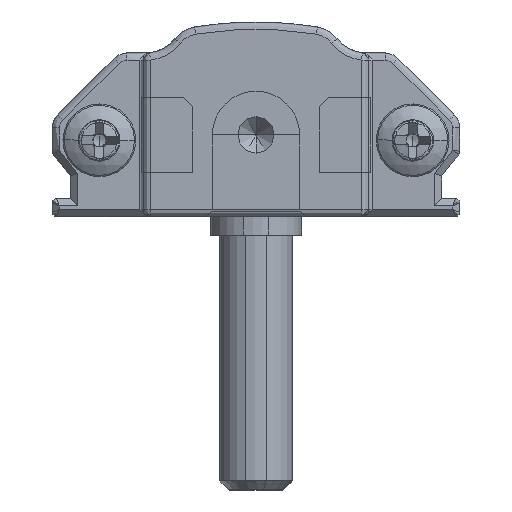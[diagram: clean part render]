
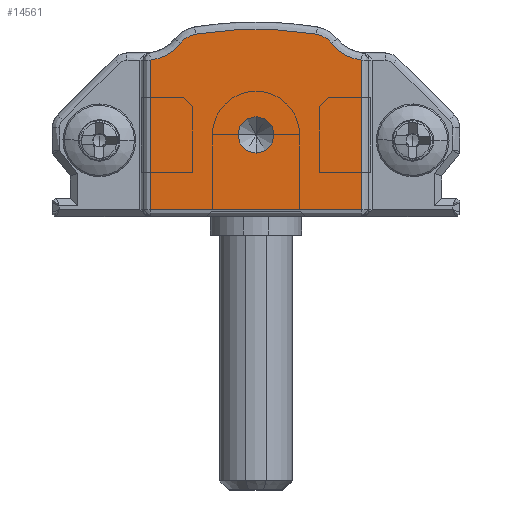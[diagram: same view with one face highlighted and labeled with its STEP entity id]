
A CAD part, front view. The second image highlights one B-rep face of the part: STEP entity #14561.
In plain terms, the highlighted planar face has unit normal (0, -1, 0).
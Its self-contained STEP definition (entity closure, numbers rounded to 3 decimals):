
#469 = ORIENTED_EDGE ( 'NONE', *, *, #38352, .T. ) ;
#662 = EDGE_LOOP ( 'NONE', ( #44811, #12972, #469, #17479, #34197, #4819, #10819, #37495 ) ) ;
#1742 = EDGE_CURVE ( 'NONE', #5420, #43557, #46769, .T. ) ;
#2039 = AXIS2_PLACEMENT_3D ( 'NONE', #30974, #5630, #42130 ) ;
#2351 = CARTESIAN_POINT ( 'NONE',  ( 5.162, -15., 11. ) ) ;
#3661 = EDGE_CURVE ( 'NONE', #36883, #9258, #21537, .T. ) ;
#4067 = CIRCLE ( 'NONE', #33595, 20.676 ) ;
#4657 = EDGE_CURVE ( 'NONE', #34499, #5420, #38083, .T. ) ;
#4819 = ORIENTED_EDGE ( 'NONE', *, *, #40513, .T. ) ;
#5420 = VERTEX_POINT ( 'NONE', #44449 ) ;
#5450 = CARTESIAN_POINT ( 'NONE',  ( 11.2, -15., 4.5 ) ) ;
#5630 = DIRECTION ( 'NONE',  ( 0., -1., 0. ) ) ;
#6838 = CARTESIAN_POINT ( 'NONE',  ( 17.238, -15., 11. ) ) ;
#8725 = CARTESIAN_POINT ( 'NONE',  ( 8.1, -15., 8.75 ) ) ;
#9174 = VERTEX_POINT ( 'NONE', #37020 ) ;
#9258 = VERTEX_POINT ( 'NONE', #13348 ) ;
#9408 = DIRECTION ( 'NONE',  ( 1., 0., 0. ) ) ;
#9730 = CIRCLE ( 'NONE', #13580, 1. ) ;
#10819 = ORIENTED_EDGE ( 'NONE', *, *, #23355, .T. ) ;
#10952 = CIRCLE ( 'NONE', #41206, 1. ) ;
#12972 = ORIENTED_EDGE ( 'NONE', *, *, #20765, .T. ) ;
#13348 = CARTESIAN_POINT ( 'NONE',  ( 7.068, -15., 9.541 ) ) ;
#13580 = AXIS2_PLACEMENT_3D ( 'NONE', #15923, #30334, #44364 ) ;
#13787 = CARTESIAN_POINT ( 'NONE',  ( 14.508, -15., 10.034 ) ) ;
#14305 = DIRECTION ( 'NONE',  ( 0., 0., 1. ) ) ;
#14561 = ADVANCED_FACE ( 'NONE', ( #46086, #46324 ), #35611, .T. ) ;
#15923 = CARTESIAN_POINT ( 'NONE',  ( 11.2, -15., 4.5 ) ) ;
#16167 = CARTESIAN_POINT ( 'NONE',  ( 5.4, -15., 8.612 ) ) ;
#16361 = CIRCLE ( 'NONE', #39911, 2.4 ) ;
#16378 = DIRECTION ( 'NONE',  ( 0., 0., -1. ) ) ;
#16612 = CARTESIAN_POINT ( 'NONE',  ( 15.332, -15., 9.541 ) ) ;
#17075 = CARTESIAN_POINT ( 'NONE',  ( 5.4, -15., 0.4 ) ) ;
#17089 = DIRECTION ( 'NONE',  ( 0., 0., -1. ) ) ;
#17479 = ORIENTED_EDGE ( 'NONE', *, *, #26780, .T. ) ;
#18183 = ORIENTED_EDGE ( 'NONE', *, *, #44472, .F. ) ;
#20070 = CARTESIAN_POINT ( 'NONE',  ( 17., -15., 0.4 ) ) ;
#20765 = EDGE_CURVE ( 'NONE', #43557, #39055, #16361, .T. ) ;
#21537 = CIRCLE ( 'NONE', #28311, 1.3 ) ;
#21609 = CARTESIAN_POINT ( 'NONE',  ( 17., -15., 8.612 ) ) ;
#22435 = VECTOR ( 'NONE', #9408, 1000. ) ;
#23176 = DIRECTION ( 'NONE',  ( 0., -1., 0. ) ) ;
#23355 = EDGE_CURVE ( 'NONE', #42604, #34499, #42656, .T. ) ;
#24138 = CARTESIAN_POINT ( 'NONE',  ( 11.2, -15., 3.5 ) ) ;
#24861 = DIRECTION ( 'NONE',  ( 0., 0., -1. ) ) ;
#25562 = CIRCLE ( 'NONE', #2039, 1.3 ) ;
#26031 = AXIS2_PLACEMENT_3D ( 'NONE', #2351, #35063, #17089 ) ;
#26290 = EDGE_LOOP ( 'NONE', ( #18183, #37652 ) ) ;
#26597 = DIRECTION ( 'NONE',  ( 0., -1., 0. ) ) ;
#26780 = EDGE_CURVE ( 'NONE', #32908, #36883, #4067, .T. ) ;
#26847 = DIRECTION ( 'NONE',  ( 0., 1., 0. ) ) ;
#27129 = VECTOR ( 'NONE', #46015, 1000. ) ;
#27893 = DIRECTION ( 'NONE',  ( 0., -1., 0. ) ) ;
#28247 = CARTESIAN_POINT ( 'NONE',  ( 17., -15., 8.612 ) ) ;
#28311 = AXIS2_PLACEMENT_3D ( 'NONE', #8725, #23176, #37616 ) ;
#28467 = DIRECTION ( 'NONE',  ( 0., 0., -1. ) ) ;
#30334 = DIRECTION ( 'NONE',  ( 0., -1., 0. ) ) ;
#30642 = CARTESIAN_POINT ( 'NONE',  ( 5.4, -15., 0.4 ) ) ;
#30974 = CARTESIAN_POINT ( 'NONE',  ( 14.3, -15., 8.75 ) ) ;
#32672 = VECTOR ( 'NONE', #14305, 1000. ) ;
#32908 = VERTEX_POINT ( 'NONE', #13787 ) ;
#33595 = AXIS2_PLACEMENT_3D ( 'NONE', #35004, #27893, #35480 ) ;
#34197 = ORIENTED_EDGE ( 'NONE', *, *, #3661, .T. ) ;
#34499 = VERTEX_POINT ( 'NONE', #30642 ) ;
#35004 = CARTESIAN_POINT ( 'NONE',  ( 11.2, -15., -10.376 ) ) ;
#35063 = DIRECTION ( 'NONE',  ( 0., 1., 0. ) ) ;
#35480 = DIRECTION ( 'NONE',  ( 0., 0., -1. ) ) ;
#35611 = PLANE ( 'NONE',  #35699 ) ;
#35699 = AXIS2_PLACEMENT_3D ( 'NONE', #43438, #39878, #28467 ) ;
#36470 = CARTESIAN_POINT ( 'NONE',  ( 7.892, -15., 10.034 ) ) ;
#36728 = EDGE_CURVE ( 'NONE', #9174, #41522, #10952, .T. ) ;
#36883 = VERTEX_POINT ( 'NONE', #36470 ) ;
#37020 = CARTESIAN_POINT ( 'NONE',  ( 11.2, -15., 5.5 ) ) ;
#37495 = ORIENTED_EDGE ( 'NONE', *, *, #4657, .T. ) ;
#37616 = DIRECTION ( 'NONE',  ( 0., 0., -1. ) ) ;
#37652 = ORIENTED_EDGE ( 'NONE', *, *, #36728, .F. ) ;
#38083 = LINE ( 'NONE', #20070, #22435 ) ;
#38352 = EDGE_CURVE ( 'NONE', #39055, #32908, #25562, .T. ) ;
#39055 = VERTEX_POINT ( 'NONE', #16612 ) ;
#39878 = DIRECTION ( 'NONE',  ( 0., -1., 0. ) ) ;
#39911 = AXIS2_PLACEMENT_3D ( 'NONE', #6838, #26847, #24861 ) ;
#40513 = EDGE_CURVE ( 'NONE', #9258, #42604, #41148, .T. ) ;
#41148 = CIRCLE ( 'NONE', #26031, 2.4 ) ;
#41206 = AXIS2_PLACEMENT_3D ( 'NONE', #5450, #26597, #16378 ) ;
#41522 = VERTEX_POINT ( 'NONE', #24138 ) ;
#42130 = DIRECTION ( 'NONE',  ( 0., 0., -1. ) ) ;
#42604 = VERTEX_POINT ( 'NONE', #16167 ) ;
#42656 = LINE ( 'NONE', #17075, #27129 ) ;
#43438 = CARTESIAN_POINT ( 'NONE',  ( 22.15, -15., 3.606 ) ) ;
#43557 = VERTEX_POINT ( 'NONE', #28247 ) ;
#44364 = DIRECTION ( 'NONE',  ( 0., 0., -1. ) ) ;
#44449 = CARTESIAN_POINT ( 'NONE',  ( 17., -15., 0.4 ) ) ;
#44472 = EDGE_CURVE ( 'NONE', #41522, #9174, #9730, .T. ) ;
#44811 = ORIENTED_EDGE ( 'NONE', *, *, #1742, .T. ) ;
#46015 = DIRECTION ( 'NONE',  ( 0., 0., -1. ) ) ;
#46086 = FACE_OUTER_BOUND ( 'NONE', #662, .T. ) ;
#46324 = FACE_BOUND ( 'NONE', #26290, .T. ) ;
#46769 = LINE ( 'NONE', #21609, #32672 ) ;
